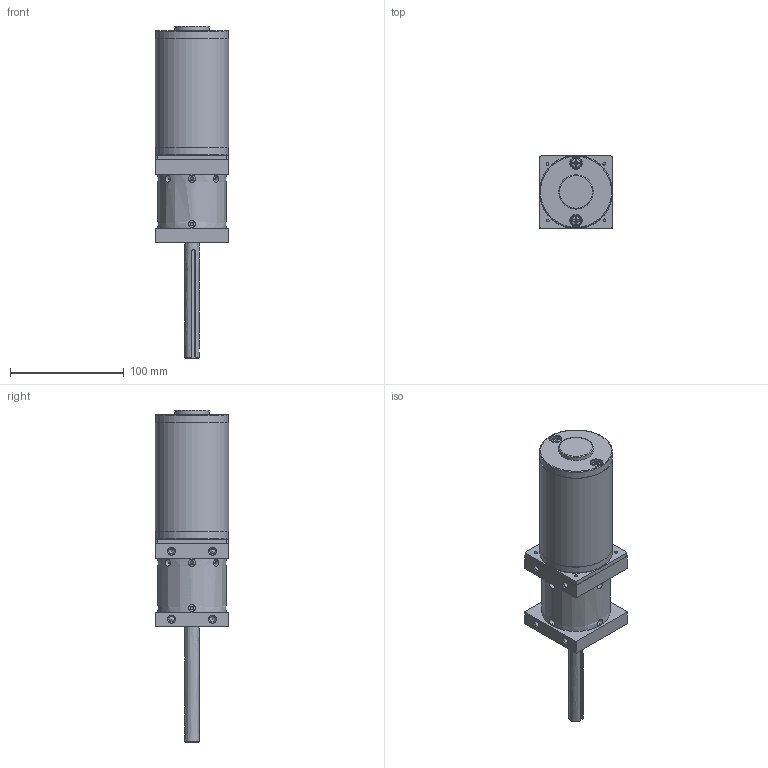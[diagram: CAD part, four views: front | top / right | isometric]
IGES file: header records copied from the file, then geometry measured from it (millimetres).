
Global section: file name: No Iges File Name specified; native system: AutoDesk Inventor R5.0; preprocessor: AutoDesk Inventor Iges Exporter R5.0; author: No Author specified; organization: No Organization specified; date: 20070112.200351; units: millimetre
Bounding box: 64.41 x 64.41 x 291.92 mm (x, y, z)
Surface area: 104385 mm2 (no closed solid volume)
Topology: 0 solids, 0 shells, 307 faces, 1323 edges, 1165 vertices
Faces by surface type: plane 123, revolution 113, bspline 71
